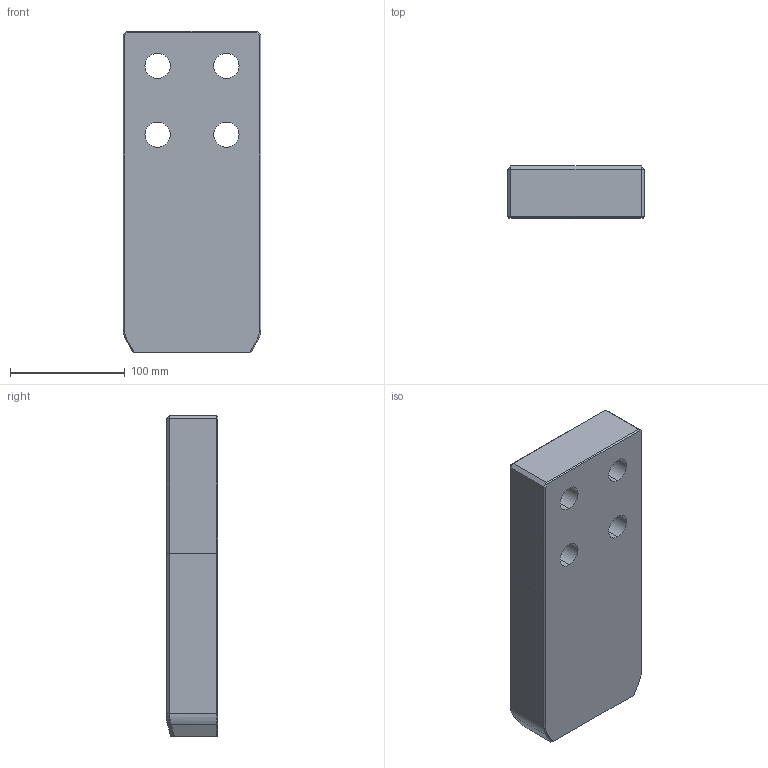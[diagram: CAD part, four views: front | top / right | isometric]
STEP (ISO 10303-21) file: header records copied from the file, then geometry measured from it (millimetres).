
FILE_DESCRIPTION((''),'2;1');
FILE_NAME('','2010-09-08T12:55:41+09:00',('misumi'),(''),'M/STEP i/f 1R2-14','CADmeister v5.1','');
FILE_SCHEMA(('AUTOMOTIVE_DESIGN'));
Length unit declared in the file: millimetre
Products named in the file (1): OGP120-280
Bounding box: 120 x 45 x 280 mm (x, y, z)
Volume: 1427021.2 mm3; surface area: 110661 mm2
Topology: 1 solids, 1 shells, 53 faces, 128 edges, 78 vertices
Faces by surface type: plane 32, cylinder 13, bspline 6, cone 2
Entity records: 1903 total; most frequent: CARTESIAN_POINT 598, ORIENTED_EDGE 248, DIRECTION 234, EDGE_CURVE 124, LINE 82, VECTOR 82, AXIS2_PLACEMENT_3D 76, VERTEX_POINT 74
